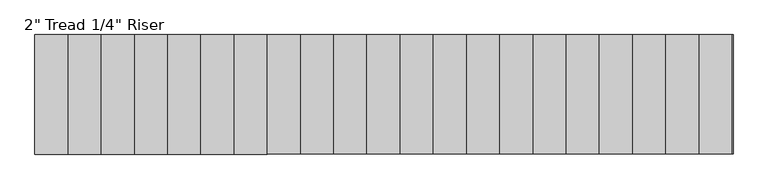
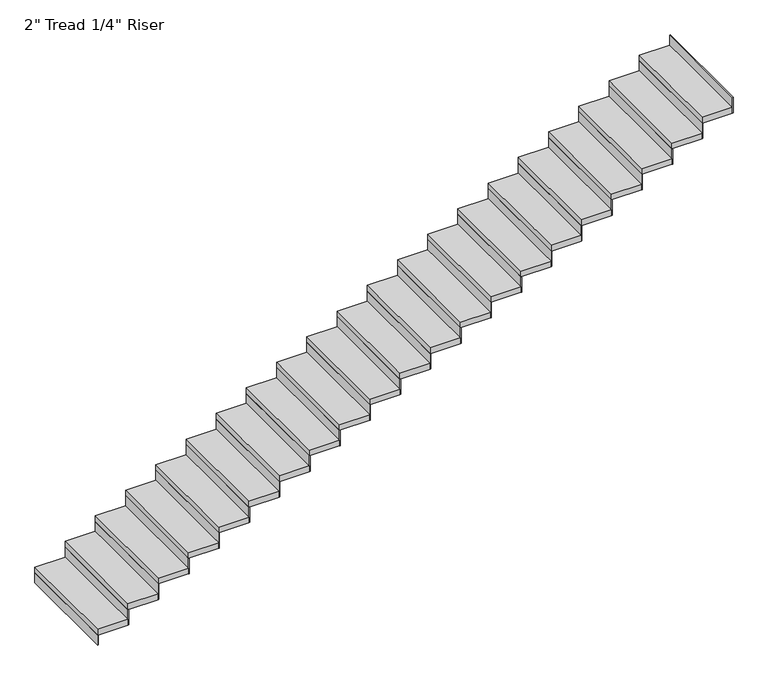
"""IFC4 building model written with IfcOpenShell, lengths in millimetres: stair flight geometry."""

from ifc_helpers import new_model, si_unit, frame, origin, origin_with_axes, place, context, project, spatial, polyline, outline, extrude, source, transform, mapped, element, save


def stair_flight_e10324fa(model_context):
    return source(origin(), model_context, "Body", "SweptSolid", [
        extrude(outline(polyline([(60465.2405484, -2400.7855758), (60458.8905484, -2400.7855758), (60458.8905484, -1486.3855758), (60465.2405484, -1486.3855758), (60465.2405484, -2400.7855758)])), origin_with_axes(), (0.0, 0.0, 1.0), 87.7454545),
        extrude(outline(polyline([(60712.8905484, -1486.3855758), (60712.8905484, -2400.7855758), (60458.8905484, -2400.7855758), (60458.8905484, -1486.3855758), (60712.8905484, -1486.3855758)])), frame((0.0, 0.0, 87.7454545), z_axis=(0.0, 0.0, 1.0), x_axis=(1.0, 0.0, 0.0)), (0.0, 0.0, 1.0), 50.8),
        extrude(outline(polyline([(60719.2405484, -2400.7855758), (60712.8905484, -2400.7855758), (60712.8905484, -1486.3855758), (60719.2405484, -1486.3855758), (60719.2405484, -2400.7855758)])), frame((0.0, 0.0, 87.7454545), z_axis=(0.0, 0.0, 1.0), x_axis=(1.0, 0.0, 0.0)), (0.0, 0.0, 1.0), 138.5454545),
        extrude(outline(polyline([(60966.8905484, -1486.3855758), (60966.8905484, -2400.7855758), (60712.8905484, -2400.7855758), (60712.8905484, -1486.3855758), (60966.8905484, -1486.3855758)])), frame((0.0, 0.0, 226.2909091), z_axis=(0.0, 0.0, 1.0), x_axis=(1.0, 0.0, 0.0)), (0.0, 0.0, 1.0), 50.8),
        extrude(outline(polyline([(60973.2405484, -2400.7855758), (60966.8905484, -2400.7855758), (60966.8905484, -1486.3855758), (60973.2405484, -1486.3855758), (60973.2405484, -2400.7855758)])), frame((0.0, 0.0, 226.2909091), z_axis=(0.0, 0.0, 1.0), x_axis=(1.0, 0.0, 0.0)), (0.0, 0.0, 1.0), 138.5454545),
        extrude(outline(polyline([(61220.8905484, -1486.3855758), (61220.8905484, -2400.7855758), (60966.8905484, -2400.7855758), (60966.8905484, -1486.3855758), (61220.8905484, -1486.3855758)])), frame((0.0, 0.0, 364.8363636), z_axis=(0.0, 0.0, 1.0), x_axis=(1.0, 0.0, 0.0)), (0.0, 0.0, 1.0), 50.8),
        extrude(outline(polyline([(61227.2405484, -2400.7855758), (61220.8905484, -2400.7855758), (61220.8905484, -1486.3855758), (61227.2405484, -1486.3855758), (61227.2405484, -2400.7855758)])), frame((0.0, 0.0, 364.8363636), z_axis=(0.0, 0.0, 1.0), x_axis=(1.0, 0.0, 0.0)), (0.0, 0.0, 1.0), 138.5454545),
        extrude(outline(polyline([(61474.8905484, -1486.3855758), (61474.8905484, -2400.7855758), (61220.8905484, -2400.7855758), (61220.8905484, -1486.3855758), (61474.8905484, -1486.3855758)])), frame((0.0, 0.0, 503.3818182), z_axis=(0.0, 0.0, 1.0), x_axis=(1.0, 0.0, 0.0)), (0.0, 0.0, 1.0), 50.8),
        extrude(outline(polyline([(61481.2405484, -2400.7855758), (61474.8905484, -2400.7855758), (61474.8905484, -1486.3855758), (61481.2405484, -1486.3855758), (61481.2405484, -2400.7855758)])), frame((0.0, 0.0, 503.3818182), z_axis=(0.0, 0.0, 1.0), x_axis=(1.0, 0.0, 0.0)), (0.0, 0.0, 1.0), 138.5454545),
        extrude(outline(polyline([(61728.8905484, -1486.3855758), (61728.8905484, -2400.7855758), (61474.8905484, -2400.7855758), (61474.8905484, -1486.3855758), (61728.8905484, -1486.3855758)])), frame((0.0, 0.0, 641.9272727), z_axis=(0.0, 0.0, 1.0), x_axis=(1.0, 0.0, 0.0)), (0.0, 0.0, 1.0), 50.8),
        extrude(outline(polyline([(61735.2405484, -2400.7855758), (61728.8905484, -2400.7855758), (61728.8905484, -1486.3855758), (61735.2405484, -1486.3855758), (61735.2405484, -2400.7855758)])), frame((0.0, 0.0, 641.9272727), z_axis=(0.0, 0.0, 1.0), x_axis=(1.0, 0.0, 0.0)), (0.0, 0.0, 1.0), 138.5454545),
        extrude(outline(polyline([(61982.8905484, -1486.3855758), (61982.8905484, -2400.7855758), (61728.8905484, -2400.7855758), (61728.8905484, -1486.3855758), (61982.8905484, -1486.3855758)])), frame((0.0, 0.0, 780.4727273), z_axis=(0.0, 0.0, 1.0), x_axis=(1.0, 0.0, 0.0)), (0.0, 0.0, 1.0), 50.8),
        extrude(outline(polyline([(61989.2405484, -2400.7855758), (61982.8905484, -2400.7855758), (61982.8905484, -1486.3855758), (61989.2405484, -1486.3855758), (61989.2405484, -2400.7855758)])), frame((0.0, 0.0, 780.4727273), z_axis=(0.0, 0.0, 1.0), x_axis=(1.0, 0.0, 0.0)), (0.0, 0.0, 1.0), 138.5454545),
        extrude(outline(polyline([(62236.8905484, -1486.3855758), (62236.8905484, -2400.7855758), (61982.8905484, -2400.7855758), (61982.8905484, -1486.3855758), (62236.8905484, -1486.3855758)])), frame((0.0, 0.0, 919.0181818), z_axis=(0.0, 0.0, 1.0), x_axis=(1.0, 0.0, 0.0)), (0.0, 0.0, 1.0), 50.8),
        extrude(outline(polyline([(62243.2405484, -2400.7855758), (62236.8905484, -2400.7855758), (62236.8905484, -1486.3855758), (62243.2405484, -1486.3855758), (62243.2405484, -2400.7855758)])), frame((0.0, 0.0, 919.0181818), z_axis=(0.0, 0.0, 1.0), x_axis=(1.0, 0.0, 0.0)), (0.0, 0.0, 1.0), 138.5454545),
        extrude(outline(polyline([(62490.8905484, -1486.3855758), (62490.8905484, -2400.7855758), (62236.8905484, -2400.7855758), (62236.8905484, -1486.3855758), (62490.8905484, -1486.3855758)])), frame((0.0, 0.0, 1057.5636364), z_axis=(0.0, 0.0, 1.0), x_axis=(1.0, 0.0, 0.0)), (0.0, 0.0, 1.0), 50.8),
        extrude(outline(polyline([(62497.2405484, -2400.7855758), (62490.8905484, -2400.7855758), (62490.8905484, -1486.3855758), (62497.2405484, -1486.3855758), (62497.2405484, -2400.7855758)])), frame((0.0, 0.0, 1057.5636364), z_axis=(0.0, 0.0, 1.0), x_axis=(1.0, 0.0, 0.0)), (0.0, 0.0, 1.0), 138.5454545),
        extrude(outline(polyline([(62744.8905484, -1486.3855758), (62744.8905484, -2400.7855758), (62490.8905484, -2400.7855758), (62490.8905484, -1486.3855758), (62744.8905484, -1486.3855758)])), frame((0.0, 0.0, 1196.1090909), z_axis=(0.0, 0.0, 1.0), x_axis=(1.0, 0.0, 0.0)), (0.0, 0.0, 1.0), 50.8),
        extrude(outline(polyline([(62751.2405484, -2400.7855758), (62744.8905484, -2400.7855758), (62744.8905484, -1486.3855758), (62751.2405484, -1486.3855758), (62751.2405484, -2400.7855758)])), frame((0.0, 0.0, 1196.1090909), z_axis=(0.0, 0.0, 1.0), x_axis=(1.0, 0.0, 0.0)), (0.0, 0.0, 1.0), 138.5454545),
        extrude(outline(polyline([(62998.8905484, -1486.3855758), (62998.8905484, -2400.7855758), (62744.8905484, -2400.7855758), (62744.8905484, -1486.3855758), (62998.8905484, -1486.3855758)])), frame((0.0, 0.0, 1334.6545455), z_axis=(0.0, 0.0, 1.0), x_axis=(1.0, 0.0, 0.0)), (0.0, 0.0, 1.0), 50.8),
        extrude(outline(polyline([(63005.2405484, -2400.7855758), (62998.8905484, -2400.7855758), (62998.8905484, -1486.3855758), (63005.2405484, -1486.3855758), (63005.2405484, -2400.7855758)])), frame((0.0, 0.0, 1334.6545455), z_axis=(0.0, 0.0, 1.0), x_axis=(1.0, 0.0, 0.0)), (0.0, 0.0, 1.0), 138.5454545),
        extrude(outline(polyline([(63252.8905484, -1486.3855758), (63252.8905484, -2400.7855758), (62998.8905484, -2400.7855758), (62998.8905484, -1486.3855758), (63252.8905484, -1486.3855758)])), frame((0.0, 0.0, 1473.2), z_axis=(0.0, 0.0, 1.0), x_axis=(1.0, 0.0, 0.0)), (0.0, 0.0, 1.0), 50.8),
        extrude(outline(polyline([(63259.2405484, -2400.7855758), (63252.8905484, -2400.7855758), (63252.8905484, -1486.3855758), (63259.2405484, -1486.3855758), (63259.2405484, -2400.7855758)])), frame((0.0, 0.0, 1473.2), z_axis=(0.0, 0.0, 1.0), x_axis=(1.0, 0.0, 0.0)), (0.0, 0.0, 1.0), 138.5454545),
        extrude(outline(polyline([(63506.8905484, -1486.3855758), (63506.8905484, -2400.7855758), (63252.8905484, -2400.7855758), (63252.8905484, -1486.3855758), (63506.8905484, -1486.3855758)])), frame((0.0, 0.0, 1611.7454545), z_axis=(0.0, 0.0, 1.0), x_axis=(1.0, 0.0, 0.0)), (0.0, 0.0, 1.0), 50.8),
        extrude(outline(polyline([(63513.2405484, -2400.7855758), (63506.8905484, -2400.7855758), (63506.8905484, -1486.3855758), (63513.2405484, -1486.3855758), (63513.2405484, -2400.7855758)])), frame((0.0, 0.0, 1611.7454545), z_axis=(0.0, 0.0, 1.0), x_axis=(1.0, 0.0, 0.0)), (0.0, 0.0, 1.0), 138.5454545),
        extrude(outline(polyline([(63760.8905484, -1486.3855758), (63760.8905484, -2400.7855758), (63506.8905484, -2400.7855758), (63506.8905484, -1486.3855758), (63760.8905484, -1486.3855758)])), frame((0.0, 0.0, 1750.2909091), z_axis=(0.0, 0.0, 1.0), x_axis=(1.0, 0.0, 0.0)), (0.0, 0.0, 1.0), 50.8),
        extrude(outline(polyline([(63767.2405484, -2400.7855758), (63760.8905484, -2400.7855758), (63760.8905484, -1486.3855758), (63767.2405484, -1486.3855758), (63767.2405484, -2400.7855758)])), frame((0.0, 0.0, 1750.2909091), z_axis=(0.0, 0.0, 1.0), x_axis=(1.0, 0.0, 0.0)), (0.0, 0.0, 1.0), 138.5454545),
        extrude(outline(polyline([(64014.8905484, -1486.3855758), (64014.8905484, -2400.7855758), (63760.8905484, -2400.7855758), (63760.8905484, -1486.3855758), (64014.8905484, -1486.3855758)])), frame((0.0, 0.0, 1888.8363636), z_axis=(0.0, 0.0, 1.0), x_axis=(1.0, 0.0, 0.0)), (0.0, 0.0, 1.0), 50.8),
        extrude(outline(polyline([(64021.2405484, -2400.7855758), (64014.8905484, -2400.7855758), (64014.8905484, -1486.3855758), (64021.2405484, -1486.3855758), (64021.2405484, -2400.7855758)])), frame((0.0, 0.0, 1888.8363636), z_axis=(0.0, 0.0, 1.0), x_axis=(1.0, 0.0, 0.0)), (0.0, 0.0, 1.0), 138.5454545),
        extrude(outline(polyline([(64268.8905484, -1486.3855758), (64268.8905484, -2400.7855758), (64014.8905484, -2400.7855758), (64014.8905484, -1486.3855758), (64268.8905484, -1486.3855758)])), frame((0.0, 0.0, 2027.3818182), z_axis=(0.0, 0.0, 1.0), x_axis=(1.0, 0.0, 0.0)), (0.0, 0.0, 1.0), 50.8),
        extrude(outline(polyline([(64275.2405484, -2400.7855758), (64268.8905484, -2400.7855758), (64268.8905484, -1486.3855758), (64275.2405484, -1486.3855758), (64275.2405484, -2400.7855758)])), frame((0.0, 0.0, 2027.3818182), z_axis=(0.0, 0.0, 1.0), x_axis=(1.0, 0.0, 0.0)), (0.0, 0.0, 1.0), 138.5454545),
        extrude(outline(polyline([(64522.8905484, -1486.3855758), (64522.8905484, -2400.7855758), (64268.8905484, -2400.7855758), (64268.8905484, -1486.3855758), (64522.8905484, -1486.3855758)])), frame((0.0, 0.0, 2165.9272727), z_axis=(0.0, 0.0, 1.0), x_axis=(1.0, 0.0, 0.0)), (0.0, 0.0, 1.0), 50.8),
        extrude(outline(polyline([(64529.2405484, -2400.7855758), (64522.8905484, -2400.7855758), (64522.8905484, -1486.3855758), (64529.2405484, -1486.3855758), (64529.2405484, -2400.7855758)])), frame((0.0, 0.0, 2165.9272727), z_axis=(0.0, 0.0, 1.0), x_axis=(1.0, 0.0, 0.0)), (0.0, 0.0, 1.0), 138.5454545),
        extrude(outline(polyline([(64776.8905484, -1486.3855758), (64776.8905484, -2400.7855758), (64522.8905484, -2400.7855758), (64522.8905484, -1486.3855758), (64776.8905484, -1486.3855758)])), frame((0.0, 0.0, 2304.4727273), z_axis=(0.0, 0.0, 1.0), x_axis=(1.0, 0.0, 0.0)), (0.0, 0.0, 1.0), 50.8),
        extrude(outline(polyline([(64783.2405484, -2400.7855758), (64776.8905484, -2400.7855758), (64776.8905484, -1486.3855758), (64783.2405484, -1486.3855758), (64783.2405484, -2400.7855758)])), frame((0.0, 0.0, 2304.4727273), z_axis=(0.0, 0.0, 1.0), x_axis=(1.0, 0.0, 0.0)), (0.0, 0.0, 1.0), 138.5454545),
        extrude(outline(polyline([(65030.8905484, -1486.3855758), (65030.8905484, -2400.7855758), (64776.8905484, -2400.7855758), (64776.8905484, -1486.3855758), (65030.8905484, -1486.3855758)])), frame((0.0, 0.0, 2443.0181818), z_axis=(0.0, 0.0, 1.0), x_axis=(1.0, 0.0, 0.0)), (0.0, 0.0, 1.0), 50.8),
        extrude(outline(polyline([(65037.2405484, -2400.7855758), (65030.8905484, -2400.7855758), (65030.8905484, -1486.3855758), (65037.2405484, -1486.3855758), (65037.2405484, -2400.7855758)])), frame((0.0, 0.0, 2443.0181818), z_axis=(0.0, 0.0, 1.0), x_axis=(1.0, 0.0, 0.0)), (0.0, 0.0, 1.0), 138.5454545),
        extrude(outline(polyline([(65284.8905484, -1486.3855758), (65284.8905484, -2400.7855758), (65030.8905484, -2400.7855758), (65030.8905484, -1486.3855758), (65284.8905484, -1486.3855758)])), frame((0.0, 0.0, 2581.5636364), z_axis=(0.0, 0.0, 1.0), x_axis=(1.0, 0.0, 0.0)), (0.0, 0.0, 1.0), 50.8),
        extrude(outline(polyline([(65291.2405484, -2400.7855758), (65284.8905484, -2400.7855758), (65284.8905484, -1486.3855758), (65291.2405484, -1486.3855758), (65291.2405484, -2400.7855758)])), frame((0.0, 0.0, 2581.5636364), z_axis=(0.0, 0.0, 1.0), x_axis=(1.0, 0.0, 0.0)), (0.0, 0.0, 1.0), 138.5454545),
        extrude(outline(polyline([(65538.8905484, -1486.3855758), (65538.8905484, -2400.7855758), (65284.8905484, -2400.7855758), (65284.8905484, -1486.3855758), (65538.8905484, -1486.3855758)])), frame((0.0, 0.0, 2720.1090909), z_axis=(0.0, 0.0, 1.0), x_axis=(1.0, 0.0, 0.0)), (0.0, 0.0, 1.0), 50.8),
        extrude(outline(polyline([(65545.2405484, -2400.7855758), (65538.8905484, -2400.7855758), (65538.8905484, -1486.3855758), (65545.2405484, -1486.3855758), (65545.2405484, -2400.7855758)])), frame((0.0, 0.0, 2720.1090909), z_axis=(0.0, 0.0, 1.0), x_axis=(1.0, 0.0, 0.0)), (0.0, 0.0, 1.0), 138.5454545),
        extrude(outline(polyline([(65799.2405484, -2400.7855758), (65792.8905484, -2400.7855758), (65792.8905484, -1486.3855758), (65799.2405484, -1486.3855758), (65799.2405484, -2400.7855758)])), frame((0.0, 0.0, 2858.6545455), z_axis=(0.0, 0.0, 1.0), x_axis=(1.0, 0.0, 0.0)), (0.0, 0.0, 1.0), 138.5454545),
        extrude(outline(polyline([(65792.8905484, -1486.3855758), (65792.8905484, -2400.7855758), (65538.8905484, -2400.7855758), (65538.8905484, -1486.3855758), (65792.8905484, -1486.3855758)])), frame((0.0, 0.0, 2858.6545455), z_axis=(0.0, 0.0, 1.0), x_axis=(1.0, 0.0, 0.0)), (0.0, 0.0, 1.0), 50.8),
    ])


if __name__ == "__main__":
    model = new_model("IFC4")
    model_context = context("Model", 3, world=origin())
    ifc_project = project(units=[si_unit("LENGTHUNIT", "METRE", prefix="MILLI")], contexts=[model_context])
    site = spatial("IfcSite", under=ifc_project)
    building = spatial("IfcBuilding", under=site)
    placement = place(None, origin())
    stair_flight_shape = stair_flight_e10324fa(model_context)
    element("IfcStairFlight", 1, ObjectType="2\" Tread 1/4\" Riser", at=placement, inside=building, context=model_context, shape_type="MappedRepresentation", body=[
        mapped(stair_flight_shape, transform((0.0, 0.0, 0.0), x_axis=(1.0, 0.0, 0.0), y_axis=(0.0, 1.0, 0.0), z_axis=(0.0, 0.0, 1.0))),
    ])
    save(model, "model.ifc")
